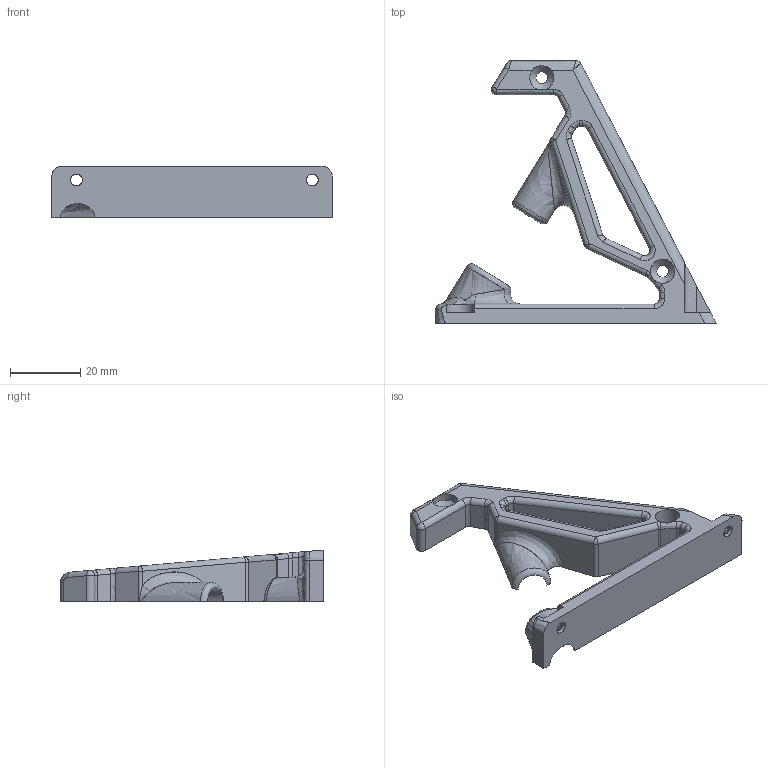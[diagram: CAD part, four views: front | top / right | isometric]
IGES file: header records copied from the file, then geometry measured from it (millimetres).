
Global section: file name: C:\Users\gehrichcr\Documents\1 Drive Backup\Practice\Inspire\V1.5\IGES\Frame Motor Foot 2 V1.5.igs; native system: NX V8.5; preprocessor: SIEMENS PLM Software NX 8.5; date: 20150608.122142; units: millimetre
Bounding box: 80 x 75.01 x 14.84 mm (x, y, z)
Surface area: 9458.5 mm2 (no closed solid volume)
Topology: 0 solids, 0 shells, 109 faces, 714 edges, 703 vertices
Faces by surface type: bspline 109
